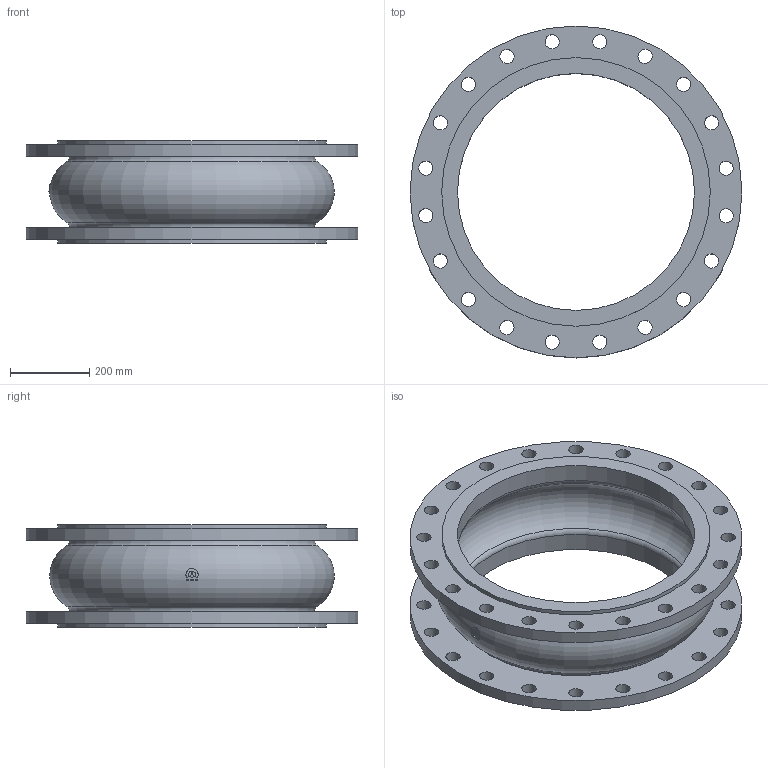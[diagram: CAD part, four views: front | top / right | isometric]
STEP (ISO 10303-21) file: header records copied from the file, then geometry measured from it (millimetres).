
FILE_DESCRIPTION(('STEP AP203'), '1');
FILE_NAME('Êîìïåíñàòîð KMS DN600 PN16_L260', '', ('UNSPECIFIED'), ('UNSPECIFIED'), 'ASCON STEP Converter 1.6', 'ASCON Math Kernel', '');
FILE_SCHEMA(('CONFIG_CONTROL_DESIGN'));
Length unit declared in the file: millimetre
Bounding box: 840 x 840 x 260 mm (x, y, z)
Volume: 21280349.4 mm3; surface area: 2362814.4 mm2
Topology: 1 solids, 1 shells, 77 faces, 196 edges, 128 vertices
Faces by surface type: cylinder 55, plane 13, torus 9
Full cylindrical faces by diameter (mm): 36 x40, 600 x2, 620 x2, 680 x2, 840 x2
Entity records: 3822 total; most frequent: CARTESIAN_POINT 1297, DIRECTION 382, ORIENTED_EDGE 284, EDGE_LOOP 220, AXIS2_PLACEMENT_3D 184, EDGE_CURVE 142, VERTEX_POINT 128, FACE_BOUND 112
